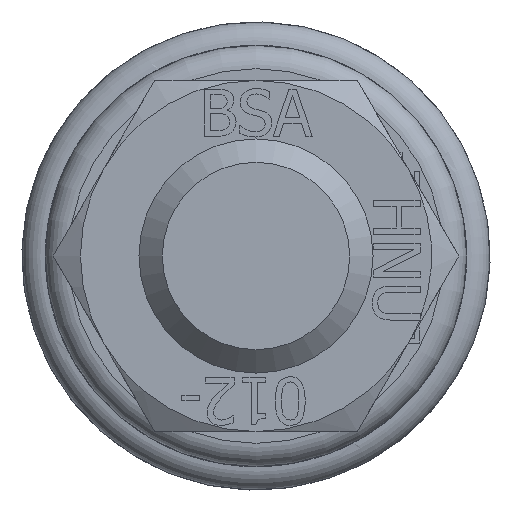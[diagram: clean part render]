
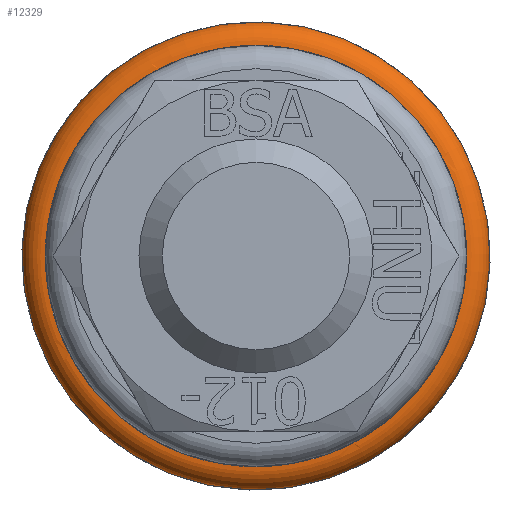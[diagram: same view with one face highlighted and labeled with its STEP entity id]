
A CAD part, front view. The second image highlights one B-rep face of the part: STEP entity #12329.
In plain terms, the highlighted toroidal (fillet/blend) face has major radius 18 mm and minor radius 2 mm.
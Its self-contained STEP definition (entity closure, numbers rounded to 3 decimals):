
#30=TOROIDAL_SURFACE('',#12805,18.,2.);
#132=CIRCLE('',#12803,18.);
#133=CIRCLE('',#12806,20.);
#215=FACE_BOUND('',#2633,.T.);
#1881=FACE_OUTER_BOUND('',#2632,.T.);
#2632=EDGE_LOOP('',(#11321));
#2633=EDGE_LOOP('',(#11322));
#5962=VERTEX_POINT('',#22672);
#5963=VERTEX_POINT('',#22676);
#7753=EDGE_CURVE('',#5962,#5962,#132,.T.);
#7754=EDGE_CURVE('',#5963,#5963,#133,.T.);
#11321=ORIENTED_EDGE('',*,*,#7753,.T.);
#11322=ORIENTED_EDGE('',*,*,#7754,.T.);
#12329=ADVANCED_FACE('',(#1881,#215),#30,.T.);
#12803=AXIS2_PLACEMENT_3D('',#22673,#14634,#14635);
#12805=AXIS2_PLACEMENT_3D('',#22675,#14638,#14639);
#12806=AXIS2_PLACEMENT_3D('',#22677,#14640,#14641);
#14634=DIRECTION('center_axis',(1.,0.,0.));
#14635=DIRECTION('ref_axis',(0.,0.,
1.));
#14638=DIRECTION('center_axis',(1.,0.,0.));
#14639=DIRECTION('ref_axis',(0.,0.,-1.));
#14640=DIRECTION('center_axis',(-1.,0.,0.));
#14641=DIRECTION('ref_axis',(0.,0.,
1.));
#22672=CARTESIAN_POINT('',(-50.,0.,-18.));
#22673=CARTESIAN_POINT('Origin',(-50.,0.,0.));
#22675=CARTESIAN_POINT('Origin',(-48.,0.,0.));
#22676=CARTESIAN_POINT('',(-48.,0.,-20.));
#22677=CARTESIAN_POINT('Origin',(-48.,0.,0.));
